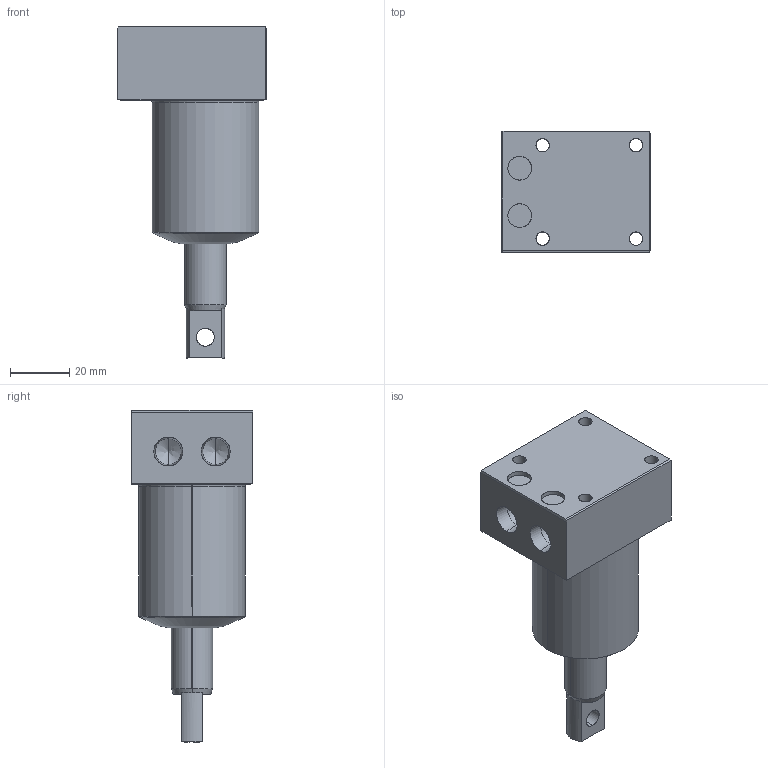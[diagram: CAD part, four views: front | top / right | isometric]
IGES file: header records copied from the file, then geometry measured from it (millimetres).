
Start section: SolidWorks IGES file using analytic representation for surfaces
Global section: file name: E:\ALL SSVT IGS MODEL\ALL-SWING-IGS\SC02-36-BM-LP-RP\SB03-361RP.IGS; native system: SolidWorks 2019; preprocessor: SolidWorks 2019; author: SSVT; date: 210822.094539; units: inch
Bounding box: 50 x 41 x 112 mm (x, y, z)
Surface area: 21427.3 mm2 (no closed solid volume)
Topology: 0 solids, 0 shells, 72 faces, 1029 edges, 1025 vertices
Faces by surface type: revolution 45, bspline 27
